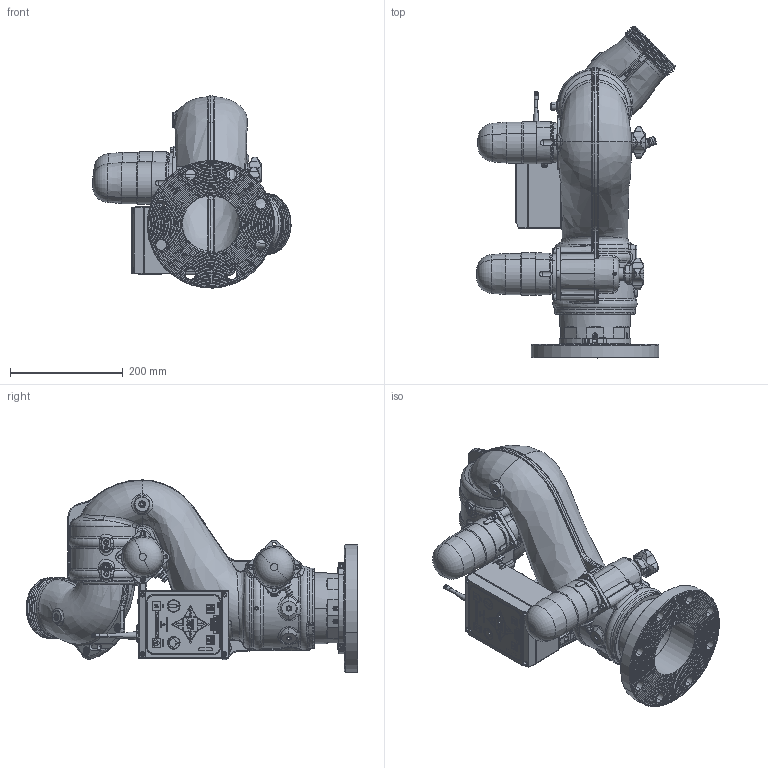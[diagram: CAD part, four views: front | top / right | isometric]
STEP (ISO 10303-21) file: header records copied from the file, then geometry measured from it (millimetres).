
FILE_DESCRIPTION (( 'STEP AP203' ), '1' );
FILE_NAME ('Y5-E21A-P.STEP', '2015-12-03T22:10:44', ( '' ), ( '' ), 'SwSTEP 2.0', 'SolidWorks 2015', '' );
FILE_SCHEMA (( 'CONFIG_CONTROL_DESIGN' ));
Products named in the file (1): Y5-E21A-P
Bounding box: 351.36 x 587.66 x 340.38 mm (x, y, z)
Surface area: 812879.2 mm2 (no closed solid volume)
Topology: 0 solids, 204 shells, 2379 faces, 10219 edges, 7889 vertices
Faces by surface type: plane 660, cylinder 471, torus 464, bspline 418, cone 321, sphere 45
Entity records: 203976 total; most frequent: CARTESIAN_POINT 128153, ORIENTED_EDGE 14931, DIRECTION 13540, EDGE_CURVE 10215, VERTEX_POINT 7889, AXIS2_PLACEMENT_3D 4630, LINE 4280, VECTOR 4280
